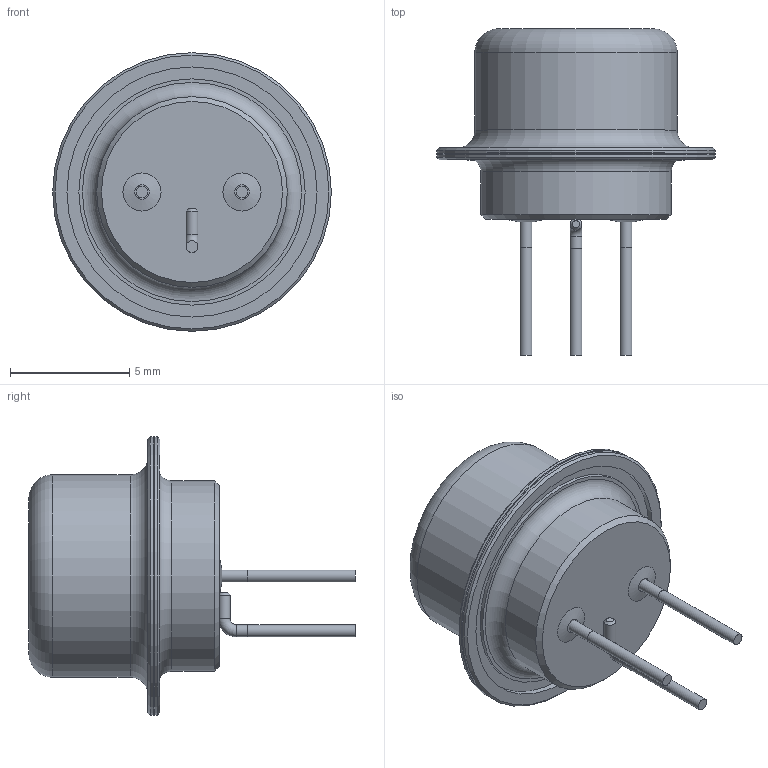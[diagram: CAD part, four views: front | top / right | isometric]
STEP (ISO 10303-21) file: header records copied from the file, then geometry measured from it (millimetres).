
FILE_DESCRIPTION (( 'STEP AP214' ), '1' );
FILE_NAME ('Ï1.49á.STEP', '2015-07-18T16:46:36', ( 'Michael' ), ( '' ), 'SwSTEP 2.0', 'SolidWorks 2014', '' );
FILE_SCHEMA (( 'AUTOMOTIVE_DESIGN' ));
Length unit declared in the file: millimetre
Products named in the file (6): 扻豵鵨; Ï1.49á; Âûâîä ïðÿìîé; Ïð.Âûâîä; ﾂ鏆鮏 肬隆; Âñòàâêà
Assembly tree (9 placements, depth 2):
  Ï1.49á
    扻豵鵨
    Âñòàâêà  x2
    ﾂ鏆鮏 肬隆
    Âûâîä ïðÿìîé  x2
    Ïð.Âûâîä  x3
Bounding box: 11.7 x 13.7 x 11.7 mm (x, y, z)
Volume: 460.7 mm3; surface area: 498.9 mm2
Topology: 9 solids, 9 shells, 53 faces, 76 edges, 47 vertices
Faces by surface type: plane 24, cylinder 17, cone 8, torus 4
Full cylindrical faces by diameter (mm): 0.5 x7, 1.6 x4, 8 x1, 8.5 x1, 9.5 x1, 10.5 x1, 11.7 x2
Entity records: 1028 total; most frequent: DIRECTION 174, CARTESIAN_POINT 122, AXIS2_PLACEMENT_3D 87, EDGE_LOOP 70, ORIENTED_EDGE 70, FACE_OUTER_BOUND 57, ADVANCED_FACE 40, CIRCLE 35
